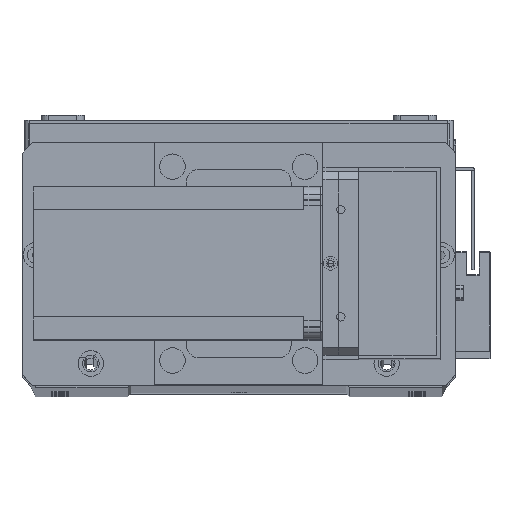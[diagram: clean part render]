
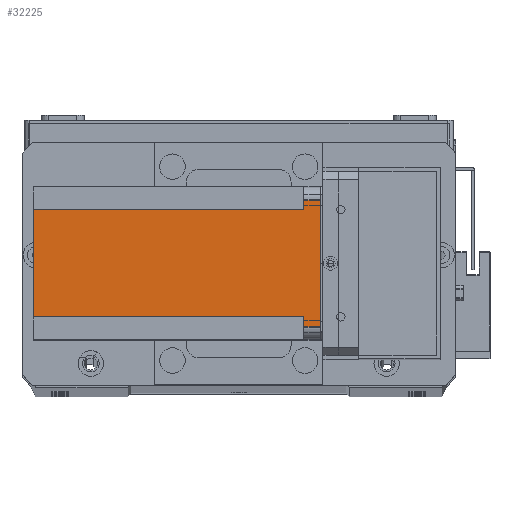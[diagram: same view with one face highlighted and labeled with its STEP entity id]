
A CAD part, top view. The second image highlights one B-rep face of the part: STEP entity #32225.
In plain terms, the highlighted planar face has unit normal (0, 0, 1) as drawn and (-1, 0, 0) by its records, which use the part's own axes.
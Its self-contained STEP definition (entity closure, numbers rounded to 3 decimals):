
#211 = CARTESIAN_POINT ( 'NONE',  ( 0., 55., -112.5 ) ) ;
#1052 = CARTESIAN_POINT ( 'NONE',  ( 0., 9., -112.5 ) ) ;
#1330 = VERTEX_POINT ( 'NONE', #14576 ) ;
#1413 = DIRECTION ( 'NONE',  ( 0., -1., 0. ) ) ;
#1752 = CARTESIAN_POINT ( 'NONE',  ( 0., 5., -112.5 ) ) ;
#2794 = DIRECTION ( 'NONE',  ( 0., 0., -1. ) ) ;
#3576 = DIRECTION ( 'NONE',  ( 0., 1., 0. ) ) ;
#6002 = CARTESIAN_POINT ( 'NONE',  ( 0., 0., -112.5 ) ) ;
#6222 = DIRECTION ( 'NONE',  ( 0., 0., -1. ) ) ;
#6411 = CARTESIAN_POINT ( 'NONE',  ( 0., 5., 0. ) ) ;
#7122 = LINE ( 'NONE', #14351, #19771 ) ;
#8420 = VECTOR ( 'NONE', #6222, 1000. ) ;
#8587 = ORIENTED_EDGE ( 'NONE', *, *, #28786, .F. ) ;
#9184 = ORIENTED_EDGE ( 'NONE', *, *, #29158, .T. ) ;
#9253 = DIRECTION ( 'NONE',  ( 0., 0., 1. ) ) ;
#9274 = ORIENTED_EDGE ( 'NONE', *, *, #29071, .F. ) ;
#10052 = VECTOR ( 'NONE', #9253, 1000. ) ;
#10747 = VECTOR ( 'NONE', #2794, 1000. ) ;
#10838 = CARTESIAN_POINT ( 'NONE',  ( 0., 51., -112.5 ) ) ;
#11114 = EDGE_LOOP ( 'NONE', ( #9274, #9184, #8587, #31616, #29314, #28276, #29853, #26006 ) ) ;
#11133 = CARTESIAN_POINT ( 'NONE',  ( 0., 60., -6.5 ) ) ;
#11572 = VECTOR ( 'NONE', #27718, 1000. ) ;
#12416 = VECTOR ( 'NONE', #3576, 1000. ) ;
#13358 = VERTEX_POINT ( 'NONE', #29308 ) ;
#14351 = CARTESIAN_POINT ( 'NONE',  ( 0., 0., -6.5 ) ) ;
#14576 = CARTESIAN_POINT ( 'NONE',  ( 0., 55., -6.5 ) ) ;
#15925 = VECTOR ( 'NONE', #28744, 1000. ) ;
#16709 = DIRECTION ( 'NONE',  ( -1., 0., 0. ) ) ;
#18046 = CARTESIAN_POINT ( 'NONE',  ( 0., 51., -6.5 ) ) ;
#19060 = LINE ( 'NONE', #11133, #12416 ) ;
#19101 = DIRECTION ( 'NONE',  ( 0., 1., 0. ) ) ;
#19245 = VERTEX_POINT ( 'NONE', #30140 ) ;
#19771 = VECTOR ( 'NONE', #19101, 1000. ) ;
#21367 = VERTEX_POINT ( 'NONE', #18046 ) ;
#21836 = LINE ( 'NONE', #1052, #8420 ) ;
#22641 = LINE ( 'NONE', #6002, #15925 ) ;
#22761 = VERTEX_POINT ( 'NONE', #6411 ) ;
#22889 = FACE_OUTER_BOUND ( 'NONE', #11114, .T. ) ;
#22926 = CARTESIAN_POINT ( 'NONE',  ( 0., 5., -6.5 ) ) ;
#23202 = VERTEX_POINT ( 'NONE', #28573 ) ;
#24205 = LINE ( 'NONE', #27837, #11572 ) ;
#24372 = CARTESIAN_POINT ( 'NONE',  ( 0., 51., -112.5 ) ) ;
#24954 = LINE ( 'NONE', #1752, #30720 ) ;
#25895 = AXIS2_PLACEMENT_3D ( 'NONE', #31511, #16709, #1413 ) ;
#26006 = ORIENTED_EDGE ( 'NONE', *, *, #30009, .F. ) ;
#26726 = PLANE ( 'NONE',  #25895 ) ;
#27156 = DIRECTION ( 'NONE',  ( 0., 0., 1. ) ) ;
#27718 = DIRECTION ( 'NONE',  ( 0., -1., 0. ) ) ;
#27837 = CARTESIAN_POINT ( 'NONE',  ( 0., 0., 0. ) ) ;
#28276 = ORIENTED_EDGE ( 'NONE', *, *, #29543, .F. ) ;
#28573 = CARTESIAN_POINT ( 'NONE',  ( 0., 55., 0. ) ) ;
#28744 = DIRECTION ( 'NONE',  ( 0., -1., 0. ) ) ;
#28786 = EDGE_CURVE ( 'NONE', #23202, #22761, #24205, .T. ) ;
#28796 = VERTEX_POINT ( 'NONE', #22926 ) ;
#29071 = EDGE_CURVE ( 'NONE', #28796, #19245, #7122, .T. ) ;
#29158 = EDGE_CURVE ( 'NONE', #28796, #22761, #24954, .T. ) ;
#29205 = EDGE_CURVE ( 'NONE', #23202, #1330, #29946, .T. ) ;
#29250 = LINE ( 'NONE', #24372, #10052 ) ;
#29308 = CARTESIAN_POINT ( 'NONE',  ( 0., 9., -112.5 ) ) ;
#29314 = ORIENTED_EDGE ( 'NONE', *, *, #29441, .F. ) ;
#29441 = EDGE_CURVE ( 'NONE', #21367, #1330, #19060, .T. ) ;
#29543 = EDGE_CURVE ( 'NONE', #30489, #21367, #29250, .T. ) ;
#29853 = ORIENTED_EDGE ( 'NONE', *, *, #29959, .T. ) ;
#29946 = LINE ( 'NONE', #211, #10747 ) ;
#29959 = EDGE_CURVE ( 'NONE', #30489, #13358, #22641, .T. ) ;
#30009 = EDGE_CURVE ( 'NONE', #19245, #13358, #21836, .T. ) ;
#30140 = CARTESIAN_POINT ( 'NONE',  ( 0., 9., -6.5 ) ) ;
#30489 = VERTEX_POINT ( 'NONE', #10838 ) ;
#30720 = VECTOR ( 'NONE', #27156, 1000. ) ;
#31511 = CARTESIAN_POINT ( 'NONE',  ( 0., 0., -112.5 ) ) ;
#31616 = ORIENTED_EDGE ( 'NONE', *, *, #29205, .T. ) ;
#32225 = ADVANCED_FACE ( 'NONE', ( #22889 ), #26726, .T. ) ;
